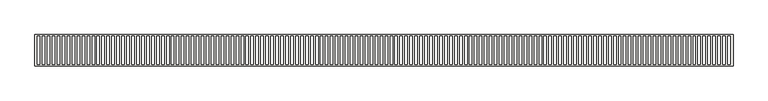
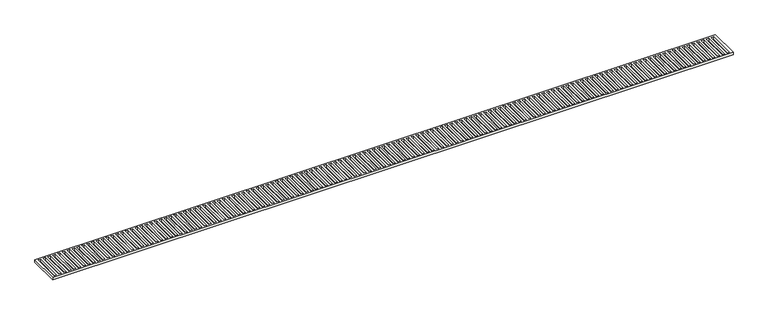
"""IFC4 building model written with IfcOpenShell, lengths in millimetres: slab geometry, REGUERA_METÁLICA4 : REGUERA_METÁLICA-04."""

from ifc_helpers import new_model, si_unit, frame, origin, place, context, project, spatial, polyline, outline, extrude, source, transform, mapped, element, save


def slab_a19fe4b6(model_context):
    return source(origin(), model_context, "Body", "SweptSolid", [
        extrude(outline(polyline([(-5519.7329107, -13600.5485726), (-5519.7329107, -14200.4490004), (-18909.163398, -14200.4490004), (-18909.163398, -13600.5485726), (-5519.7329107, -13600.5485726)]), holes=[polyline([(-8003.038398, -13630.5733804), (-8003.038398, -14170.5339488), (-7955.413398, -14170.5339488), (-7955.413398, -13630.5733804), (-8003.038398, -13630.5733804)]), polyline([(-7907.788398, -13630.5733804), (-7907.788398, -14170.5339488), (-7860.163398, -14170.5339488), (-7860.163398, -13630.5733804), (-7907.788398, -13630.5733804)]), polyline([(-7812.538398, -13630.5733804), (-7812.538398, -14170.5339488), (-7764.913398, -14170.5339488), (-7764.913398, -13630.5733804), (-7812.538398, -13630.5733804)]), polyline([(-7717.288398, -13630.5733804), (-7717.288398, -14170.5339488), (-7669.663398, -14170.5339488), (-7669.663398, -13630.5733804), (-7717.288398, -13630.5733804)]), polyline([(-7622.038398, -13630.5733804), (-7622.038398, -14170.5339488), (-7574.413398, -14170.5339488), (-7574.413398, -13630.5733804), (-7622.038398, -13630.5733804)]), polyline([(-7526.788398, -13630.5733804), (-7526.788398, -14170.5339488), (-7479.163398, -14170.5339488), (-7479.163398, -13630.5733804), (-7526.788398, -13630.5733804)]), polyline([(-7431.538398, -13630.5733804), (-7431.538398, -14170.5339488), (-7383.913398, -14170.5339488), (-7383.913398, -13630.5733804), (-7431.538398, -13630.5733804)]), polyline([(-7336.288398, -13630.5733804), (-7336.288398, -14170.5339488), (-7288.663398, -14170.5339488), (-7288.663398, -13630.5733804), (-7336.288398, -13630.5733804)]), polyline([(-7241.038398, -13630.5733804), (-7241.038398, -14170.5339488), (-7193.413398, -14170.5339488), (-7193.413398, -13630.5733804), (-7241.038398, -13630.5733804)]), polyline([(-7145.788398, -13630.5733804), (-7145.788398, -14170.5339488), (-7098.163398, -14170.5339488), (-7098.163398, -13630.5733804), (-7145.788398, -13630.5733804)]), polyline([(-7050.538398, -13630.5733804), (-7050.538398, -14170.5339488), (-7002.913398, -14170.5339488), (-7002.913398, -13630.5733804), (-7050.538398, -13630.5733804)]), polyline([(-6955.288398, -13630.5733804), (-6955.288398, -14170.5339488), (-6907.663398, -14170.5339488), (-6907.663398, -13630.5733804), (-6955.288398, -13630.5733804)]), polyline([(-6860.038398, -13630.5733804), (-6860.038398, -14170.5339488), (-6812.413398, -14170.5339488), (-6812.413398, -13630.5733804), (-6860.038398, -13630.5733804)]), polyline([(-6764.788398, -13630.5733804), (-6764.788398, -14170.5339488), (-6717.163398, -14170.5339488), (-6717.163398, -13630.5733804), (-6764.788398, -13630.5733804)]), polyline([(-6669.538398, -13630.5733804), (-6669.538398, -14170.5339488), (-6621.913398, -14170.5339488), (-6621.913398, -13630.5733804), (-6669.538398, -13630.5733804)]), polyline([(-6574.288398, -13630.5733804), (-6574.288398, -14170.5339488), (-6526.663398, -14170.5339488), (-6526.663398, -13630.5733804), (-6574.288398, -13630.5733804)]), polyline([(-6479.038398, -13630.5733804), (-6479.038398, -14170.5339488), (-6431.413398, -14170.5339488), (-6431.413398, -13630.5733804), (-6479.038398, -13630.5733804)]), polyline([(-6383.788398, -13630.5733804), (-6383.788398, -14170.5339488), (-6336.163398, -14170.5339488), (-6336.163398, -13630.5733804), (-6383.788398, -13630.5733804)]), polyline([(-6288.538398, -13630.5733804), (-6288.538398, -14170.5339488), (-6240.913398, -14170.5339488), (-6240.913398, -13630.5733804), (-6288.538398, -13630.5733804)]), polyline([(-6193.288398, -13630.5733804), (-6193.288398, -14170.5339488), (-6145.663398, -14170.5339488), (-6145.663398, -13630.5733804), (-6193.288398, -13630.5733804)]), polyline([(-6098.038398, -13630.5733804), (-6098.038398, -14170.5339488), (-6050.413398, -14170.5339488), (-6050.413398, -13630.5733804), (-6098.038398, -13630.5733804)]), polyline([(-6002.788398, -13630.5733804), (-6002.788398, -14170.5339488), (-5955.163398, -14170.5339488), (-5955.163398, -13630.5733804), (-6002.788398, -13630.5733804)]), polyline([(-5907.538398, -13630.5733804), (-5907.538398, -14170.5339488), (-5859.913398, -14170.5339488), (-5859.913398, -13630.5733804), (-5907.538398, -13630.5733804)]), polyline([(-5812.288398, -13630.5733804), (-5812.288398, -14170.5339488), (-5764.663398, -14170.5339488), (-5764.663398, -13630.5733804), (-5812.288398, -13630.5733804)]), polyline([(-5717.038398, -13630.5733804), (-5717.038398, -14170.5339488), (-5669.413398, -14170.5339488), (-5669.413398, -13630.5733804), (-5717.038398, -13630.5733804)]), polyline([(-5621.788398, -13630.5733804), (-5621.788398, -14170.5339488), (-5574.163398, -14170.5339488), (-5574.163398, -13630.5733804), (-5621.788398, -13630.5733804)]), polyline([(-10384.288398, -13630.5733804), (-10384.288398, -14170.5339488), (-10336.663398, -14170.5339488), (-10336.663398, -13630.5733804), (-10384.288398, -13630.5733804)]), polyline([(-10289.038398, -13630.5733804), (-10289.038398, -14170.5339488), (-10241.413398, -14170.5339488), (-10241.413398, -13630.5733804), (-10289.038398, -13630.5733804)]), polyline([(-10193.788398, -13630.5733804), (-10193.788398, -14170.5339488), (-10146.163398, -14170.5339488), (-10146.163398, -13630.5733804), (-10193.788398, -13630.5733804)]), polyline([(-10098.538398, -13630.5733804), (-10098.538398, -14170.5339488), (-10050.913398, -14170.5339488), (-10050.913398, -13630.5733804), (-10098.538398, -13630.5733804)]), polyline([(-10003.288398, -13630.5733804), (-10003.288398, -14170.5339488), (-9955.663398, -14170.5339488), (-9955.663398, -13630.5733804), (-10003.288398, -13630.5733804)]), polyline([(-9908.038398, -13630.5733804), (-9908.038398, -14170.5339488), (-9860.413398, -14170.5339488), (-9860.413398, -13630.5733804), (-9908.038398, -13630.5733804)]), polyline([(-9812.788398, -13630.5733804), (-9812.788398, -14170.5339488), (-9765.163398, -14170.5339488), (-9765.163398, -13630.5733804), (-9812.788398, -13630.5733804)]), polyline([(-9717.538398, -13630.5733804), (-9717.538398, -14170.5339488), (-9669.913398, -14170.5339488), (-9669.913398, -13630.5733804), (-9717.538398, -13630.5733804)]), polyline([(-9622.288398, -13630.5733804), (-9622.288398, -14170.5339488), (-9574.663398, -14170.5339488), (-9574.663398, -13630.5733804), (-9622.288398, -13630.5733804)]), polyline([(-9527.038398, -13630.5733804), (-9527.038398, -14170.5339488), (-9479.413398, -14170.5339488), (-9479.413398, -13630.5733804), (-9527.038398, -13630.5733804)]), polyline([(-9431.788398, -13630.5733804), (-9431.788398, -14170.5339488), (-9384.163398, -14170.5339488), (-9384.163398, -13630.5733804), (-9431.788398, -13630.5733804)]), polyline([(-9336.538398, -13630.5733804), (-9336.538398, -14170.5339488), (-9288.913398, -14170.5339488), (-9288.913398, -13630.5733804), (-9336.538398, -13630.5733804)]), polyline([(-9241.288398, -13630.5733804), (-9241.288398, -14170.5339488), (-9193.663398, -14170.5339488), (-9193.663398, -13630.5733804), (-9241.288398, -13630.5733804)]), polyline([(-9146.038398, -13630.5733804), (-9146.038398, -14170.5339488), (-9098.413398, -14170.5339488), (-9098.413398, -13630.5733804), (-9146.038398, -13630.5733804)]), polyline([(-9050.788398, -13630.5733804), (-9050.788398, -14170.5339488), (-9003.163398, -14170.5339488), (-9003.163398, -13630.5733804), (-9050.788398, -13630.5733804)]), polyline([(-8955.538398, -13630.5733804), (-8955.538398, -14170.5339488), (-8907.913398, -14170.5339488), (-8907.913398, -13630.5733804), (-8955.538398, -13630.5733804)]), polyline([(-8860.288398, -13630.5733804), (-8860.288398, -14170.5339488), (-8812.663398, -14170.5339488), (-8812.663398, -13630.5733804), (-8860.288398, -13630.5733804)]), polyline([(-8765.038398, -13630.5733804), (-8765.038398, -14170.5339488), (-8717.413398, -14170.5339488), (-8717.413398, -13630.5733804), (-8765.038398, -13630.5733804)]), polyline([(-8669.788398, -13630.5733804), (-8669.788398, -14170.5339488), (-8622.163398, -14170.5339488), (-8622.163398, -13630.5733804), (-8669.788398, -13630.5733804)]), polyline([(-8574.538398, -13630.5733804), (-8574.538398, -14170.5339488), (-8526.913398, -14170.5339488), (-8526.913398, -13630.5733804), (-8574.538398, -13630.5733804)]), polyline([(-8479.288398, -13630.5733804), (-8479.288398, -14170.5339488), (-8431.663398, -14170.5339488), (-8431.663398, -13630.5733804), (-8479.288398, -13630.5733804)]), polyline([(-8384.038398, -13630.5733804), (-8384.038398, -14170.5339488), (-8336.413398, -14170.5339488), (-8336.413398, -13630.5733804), (-8384.038398, -13630.5733804)]), polyline([(-8288.788398, -13630.5733804), (-8288.788398, -14170.5339488), (-8241.163398, -14170.5339488), (-8241.163398, -13630.5733804), (-8288.788398, -13630.5733804)]), polyline([(-8193.538398, -13630.5733804), (-8193.538398, -14170.5339488), (-8145.913398, -14170.5339488), (-8145.913398, -13630.5733804), (-8193.538398, -13630.5733804)]), polyline([(-8098.288398, -13630.5733804), (-8098.288398, -14170.5339488), (-8050.663398, -14170.5339488), (-8050.663398, -13630.5733804), (-8098.288398, -13630.5733804)]), polyline([(-12765.538398, -13630.5733804), (-12765.538398, -14170.5339488), (-12717.913398, -14170.5339488), (-12717.913398, -13630.5733804), (-12765.538398, -13630.5733804)]), polyline([(-12670.288398, -13630.5733804), (-12670.288398, -14170.5339488), (-12622.663398, -14170.5339488), (-12622.663398, -13630.5733804), (-12670.288398, -13630.5733804)]), polyline([(-12575.038398, -13630.5733804), (-12575.038398, -14170.5339488), (-12527.413398, -14170.5339488), (-12527.413398, -13630.5733804), (-12575.038398, -13630.5733804)]), polyline([(-12479.788398, -13630.5733804), (-12479.788398, -14170.5339488), (-12432.163398, -14170.5339488), (-12432.163398, -13630.5733804), (-12479.788398, -13630.5733804)]), polyline([(-12384.538398, -13630.5733804), (-12384.538398, -14170.5339488), (-12336.913398, -14170.5339488), (-12336.913398, -13630.5733804), (-12384.538398, -13630.5733804)]), polyline([(-12289.288398, -13630.5733804), (-12289.288398, -14170.5339488), (-12241.663398, -14170.5339488), (-12241.663398, -13630.5733804), (-12289.288398, -13630.5733804)]), polyline([(-12194.038398, -13630.5733804), (-12194.038398, -14170.5339488), (-12146.413398, -14170.5339488), (-12146.413398, -13630.5733804), (-12194.038398, -13630.5733804)]), polyline([(-12098.788398, -13630.5733804), (-12098.788398, -14170.5339488), (-12051.163398, -14170.5339488), (-12051.163398, -13630.5733804), (-12098.788398, -13630.5733804)]), polyline([(-12003.538398, -13630.5733804), (-12003.538398, -14170.5339488), (-11955.913398, -14170.5339488), (-11955.913398, -13630.5733804), (-12003.538398, -13630.5733804)]), polyline([(-11908.288398, -13630.5733804), (-11908.288398, -14170.5339488), (-11860.663398, -14170.5339488), (-11860.663398, -13630.5733804), (-11908.288398, -13630.5733804)]), polyline([(-11813.038398, -13630.5733804), (-11813.038398, -14170.5339488), (-11765.413398, -14170.5339488), (-11765.413398, -13630.5733804), (-11813.038398, -13630.5733804)]), polyline([(-11717.788398, -13630.5733804), (-11717.788398, -14170.5339488), (-11670.163398, -14170.5339488), (-11670.163398, -13630.5733804), (-11717.788398, -13630.5733804)]), polyline([(-11622.538398, -13630.5733804), (-11622.538398, -14170.5339488), (-11574.913398, -14170.5339488), (-11574.913398, -13630.5733804), (-11622.538398, -13630.5733804)]), polyline([(-11527.288398, -13630.5733804), (-11527.288398, -14170.5339488), (-11479.663398, -14170.5339488), (-11479.663398, -13630.5733804), (-11527.288398, -13630.5733804)]), polyline([(-11432.038398, -13630.5733804), (-11432.038398, -14170.5339488), (-11384.413398, -14170.5339488), (-11384.413398, -13630.5733804), (-11432.038398, -13630.5733804)]), polyline([(-11336.788398, -13630.5733804), (-11336.788398, -14170.5339488), (-11289.163398, -14170.5339488), (-11289.163398, -13630.5733804), (-11336.788398, -13630.5733804)]), polyline([(-11241.538398, -13630.5733804), (-11241.538398, -14170.5339488), (-11193.913398, -14170.5339488), (-11193.913398, -13630.5733804), (-11241.538398, -13630.5733804)]), polyline([(-11146.288398, -13630.5733804), (-11146.288398, -14170.5339488), (-11098.663398, -14170.5339488), (-11098.663398, -13630.5733804), (-11146.288398, -13630.5733804)]), polyline([(-11051.038398, -13630.5733804), (-11051.038398, -14170.5339488), (-11003.413398, -14170.5339488), (-11003.413398, -13630.5733804), (-11051.038398, -13630.5733804)]), polyline([(-10955.788398, -13630.5733804), (-10955.788398, -14170.5339488), (-10908.163398, -14170.5339488), (-10908.163398, -13630.5733804), (-10955.788398, -13630.5733804)]), polyline([(-10860.538398, -13630.5733804), (-10860.538398, -14170.5339488), (-10812.913398, -14170.5339488), (-10812.913398, -13630.5733804), (-10860.538398, -13630.5733804)]), polyline([(-10765.288398, -13630.5733804), (-10765.288398, -14170.5339488), (-10717.663398, -14170.5339488), (-10717.663398, -13630.5733804), (-10765.288398, -13630.5733804)]), polyline([(-10670.038398, -13630.5733804), (-10670.038398, -14170.5339488), (-10622.413398, -14170.5339488), (-10622.413398, -13630.5733804), (-10670.038398, -13630.5733804)]), polyline([(-10574.788398, -13630.5733804), (-10574.788398, -14170.5339488), (-10527.163398, -14170.5339488), (-10527.163398, -13630.5733804), (-10574.788398, -13630.5733804)]), polyline([(-10479.538398, -13630.5733804), (-10479.538398, -14170.5339488), (-10431.913398, -14170.5339488), (-10431.913398, -13630.5733804), (-10479.538398, -13630.5733804)]), polyline([(-15146.788398, -13630.5733804), (-15146.788398, -14170.5339488), (-15099.163398, -14170.5339488), (-15099.163398, -13630.5733804), (-15146.788398, -13630.5733804)]), polyline([(-15051.538398, -13630.5733804), (-15051.538398, -14170.5339488), (-15003.913398, -14170.5339488), (-15003.913398, -13630.5733804), (-15051.538398, -13630.5733804)]), polyline([(-14956.288398, -13630.5733804), (-14956.288398, -14170.5339488), (-14908.663398, -14170.5339488), (-14908.663398, -13630.5733804), (-14956.288398, -13630.5733804)]), polyline([(-14861.038398, -13630.5733804), (-14861.038398, -14170.5339488), (-14813.413398, -14170.5339488), (-14813.413398, -13630.5733804), (-14861.038398, -13630.5733804)]), polyline([(-14765.788398, -13630.5733804), (-14765.788398, -14170.5339488), (-14718.163398, -14170.5339488), (-14718.163398, -13630.5733804), (-14765.788398, -13630.5733804)]), polyline([(-14670.538398, -13630.5733804), (-14670.538398, -14170.5339488), (-14622.913398, -14170.5339488), (-14622.913398, -13630.5733804), (-14670.538398, -13630.5733804)]), polyline([(-14575.288398, -13630.5733804), (-14575.288398, -14170.5339488), (-14527.663398, -14170.5339488), (-14527.663398, -13630.5733804), (-14575.288398, -13630.5733804)]), polyline([(-14480.038398, -13630.5733804), (-14480.038398, -14170.5339488), (-14432.413398, -14170.5339488), (-14432.413398, -13630.5733804), (-14480.038398, -13630.5733804)]), polyline([(-14384.788398, -13630.5733804), (-14384.788398, -14170.5339488), (-14337.163398, -14170.5339488), (-14337.163398, -13630.5733804), (-14384.788398, -13630.5733804)]), polyline([(-14289.538398, -13630.5733804), (-14289.538398, -14170.5339488), (-14241.913398, -14170.5339488), (-14241.913398, -13630.5733804), (-14289.538398, -13630.5733804)]), polyline([(-14194.288398, -13630.5733804), (-14194.288398, -14170.5339488), (-14146.663398, -14170.5339488), (-14146.663398, -13630.5733804), (-14194.288398, -13630.5733804)]), polyline([(-14099.038398, -13630.5733804), (-14099.038398, -14170.5339488), (-14051.413398, -14170.5339488), (-14051.413398, -13630.5733804), (-14099.038398, -13630.5733804)]), polyline([(-14003.788398, -13630.5733804), (-14003.788398, -14170.5339488), (-13956.163398, -14170.5339488), (-13956.163398, -13630.5733804), (-14003.788398, -13630.5733804)]), polyline([(-13908.538398, -13630.5733804), (-13908.538398, -14170.5339488), (-13860.913398, -14170.5339488), (-13860.913398, -13630.5733804), (-13908.538398, -13630.5733804)]), polyline([(-13813.288398, -13630.5733804), (-13813.288398, -14170.5339488), (-13765.663398, -14170.5339488), (-13765.663398, -13630.5733804), (-13813.288398, -13630.5733804)]), polyline([(-13718.038398, -13630.5733804), (-13718.038398, -14170.5339488), (-13670.413398, -14170.5339488), (-13670.413398, -13630.5733804), (-13718.038398, -13630.5733804)]), polyline([(-13622.788398, -13630.5733804), (-13622.788398, -14170.5339488), (-13575.163398, -14170.5339488), (-13575.163398, -13630.5733804), (-13622.788398, -13630.5733804)]), polyline([(-13527.538398, -13630.5733804), (-13527.538398, -14170.5339488), (-13479.913398, -14170.5339488), (-13479.913398, -13630.5733804), (-13527.538398, -13630.5733804)]), polyline([(-13432.288398, -13630.5733804), (-13432.288398, -14170.5339488), (-13384.663398, -14170.5339488), (-13384.663398, -13630.5733804), (-13432.288398, -13630.5733804)]), polyline([(-13337.038398, -13630.5733804), (-13337.038398, -14170.5339488), (-13289.413398, -14170.5339488), (-13289.413398, -13630.5733804), (-13337.038398, -13630.5733804)]), polyline([(-13241.788398, -13630.5733804), (-13241.788398, -14170.5339488), (-13194.163398, -14170.5339488), (-13194.163398, -13630.5733804), (-13241.788398, -13630.5733804)]), polyline([(-13146.538398, -13630.5733804), (-13146.538398, -14170.5339488), (-13098.913398, -14170.5339488), (-13098.913398, -13630.5733804), (-13146.538398, -13630.5733804)]), polyline([(-13051.288398, -13630.5733804), (-13051.288398, -14170.5339488), (-13003.663398, -14170.5339488), (-13003.663398, -13630.5733804), (-13051.288398, -13630.5733804)]), polyline([(-12956.038398, -13630.5733804), (-12956.038398, -14170.5339488), (-12908.413398, -14170.5339488), (-12908.413398, -13630.5733804), (-12956.038398, -13630.5733804)]), polyline([(-12860.788398, -13630.5733804), (-12860.788398, -14170.5339488), (-12813.163398, -14170.5339488), (-12813.163398, -13630.5733804), (-12860.788398, -13630.5733804)]), polyline([(-17528.038398, -13630.5733804), (-17528.038398, -14170.5339488), (-17480.413398, -14170.5339488), (-17480.413398, -13630.5733804), (-17528.038398, -13630.5733804)]), polyline([(-17432.788398, -13630.5733804), (-17432.788398, -14170.5339488), (-17385.163398, -14170.5339488), (-17385.163398, -13630.5733804), (-17432.788398, -13630.5733804)]), polyline([(-17337.538398, -13630.5733804), (-17337.538398, -14170.5339488), (-17289.913398, -14170.5339488), (-17289.913398, -13630.5733804), (-17337.538398, -13630.5733804)]), polyline([(-17242.288398, -13630.5733804), (-17242.288398, -14170.5339488), (-17194.663398, -14170.5339488), (-17194.663398, -13630.5733804), (-17242.288398, -13630.5733804)]), polyline([(-17147.038398, -13630.5733804), (-17147.038398, -14170.5339488), (-17099.413398, -14170.5339488), (-17099.413398, -13630.5733804), (-17147.038398, -13630.5733804)]), polyline([(-17051.788398, -13630.5733804), (-17051.788398, -14170.5339488), (-17004.163398, -14170.5339488), (-17004.163398, -13630.5733804), (-17051.788398, -13630.5733804)]), polyline([(-16956.538398, -13630.5733804), (-16956.538398, -14170.5339488), (-16908.913398, -14170.5339488), (-16908.913398, -13630.5733804), (-16956.538398, -13630.5733804)]), polyline([(-16861.288398, -13630.5733804), (-16861.288398, -14170.5339488), (-16813.663398, -14170.5339488), (-16813.663398, -13630.5733804), (-16861.288398, -13630.5733804)]), polyline([(-16766.038398, -13630.5733804), (-16766.038398, -14170.5339488), (-16718.413398, -14170.5339488), (-16718.413398, -13630.5733804), (-16766.038398, -13630.5733804)]), polyline([(-16670.788398, -13630.5733804), (-16670.788398, -14170.5339488), (-16623.163398, -14170.5339488), (-16623.163398, -13630.5733804), (-16670.788398, -13630.5733804)]), polyline([(-16575.538398, -13630.5733804), (-16575.538398, -14170.5339488), (-16527.913398, -14170.5339488), (-16527.913398, -13630.5733804), (-16575.538398, -13630.5733804)]), polyline([(-16480.288398, -13630.5733804), (-16480.288398, -14170.5339488), (-16432.663398, -14170.5339488), (-16432.663398, -13630.5733804), (-16480.288398, -13630.5733804)]), polyline([(-16385.038398, -13630.5733804), (-16385.038398, -14170.5339488), (-16337.413398, -14170.5339488), (-16337.413398, -13630.5733804), (-16385.038398, -13630.5733804)]), polyline([(-16289.788398, -13630.5733804), (-16289.788398, -14170.5339488), (-16242.163398, -14170.5339488), (-16242.163398, -13630.5733804), (-16289.788398, -13630.5733804)]), polyline([(-16194.538398, -13630.5733804), (-16194.538398, -14170.5339488), (-16146.913398, -14170.5339488), (-16146.913398, -13630.5733804), (-16194.538398, -13630.5733804)]), polyline([(-16099.288398, -13630.5733804), (-16099.288398, -14170.5339488), (-16051.663398, -14170.5339488), (-16051.663398, -13630.5733804), (-16099.288398, -13630.5733804)]), polyline([(-16004.038398, -13630.5733804), (-16004.038398, -14170.5339488), (-15956.413398, -14170.5339488), (-15956.413398, -13630.5733804), (-16004.038398, -13630.5733804)]), polyline([(-15908.788398, -13630.5733804), (-15908.788398, -14170.5339488), (-15861.163398, -14170.5339488), (-15861.163398, -13630.5733804), (-15908.788398, -13630.5733804)]), polyline([(-15813.538398, -13630.5733804), (-15813.538398, -14170.5339488), (-15765.913398, -14170.5339488), (-15765.913398, -13630.5733804), (-15813.538398, -13630.5733804)]), polyline([(-15718.288398, -13630.5733804), (-15718.288398, -14170.5339488), (-15670.663398, -14170.5339488), (-15670.663398, -13630.5733804), (-15718.288398, -13630.5733804)]), polyline([(-15623.038398, -13630.5733804), (-15623.038398, -14170.5339488), (-15575.413398, -14170.5339488), (-15575.413398, -13630.5733804), (-15623.038398, -13630.5733804)]), polyline([(-15527.788398, -13630.5733804), (-15527.788398, -14170.5339488), (-15480.163398, -14170.5339488), (-15480.163398, -13630.5733804), (-15527.788398, -13630.5733804)]), polyline([(-15432.538398, -13630.5733804), (-15432.538398, -14170.5339488), (-15384.913398, -14170.5339488), (-15384.913398, -13630.5733804), (-15432.538398, -13630.5733804)]), polyline([(-15337.288398, -13630.5733804), (-15337.288398, -14170.5339488), (-15289.663398, -14170.5339488), (-15289.663398, -13630.5733804), (-15337.288398, -13630.5733804)]), polyline([(-15242.038398, -13630.5733804), (-15242.038398, -14170.5339488), (-15194.413398, -14170.5339488), (-15194.413398, -13630.5733804), (-15242.038398, -13630.5733804)]), polyline([(-18861.538398, -13630.5733804), (-18861.538398, -14170.5339488), (-18813.913398, -14170.5339488), (-18813.913398, -13630.5733804), (-18861.538398, -13630.5733804)]), polyline([(-18766.288398, -13630.5733804), (-18766.288398, -14170.5339488), (-18718.663398, -14170.5339488), (-18718.663398, -13630.5733804), (-18766.288398, -13630.5733804)]), polyline([(-18671.038398, -13630.5733804), (-18671.038398, -14170.5339488), (-18623.413398, -14170.5339488), (-18623.413398, -13630.5733804), (-18671.038398, -13630.5733804)]), polyline([(-18575.788398, -13630.5733804), (-18575.788398, -14170.5339488), (-18528.163398, -14170.5339488), (-18528.163398, -13630.5733804), (-18575.788398, -13630.5733804)]), polyline([(-18480.538398, -13630.5733804), (-18480.538398, -14170.5339488), (-18432.913398, -14170.5339488), (-18432.913398, -13630.5733804), (-18480.538398, -13630.5733804)]), polyline([(-18385.288398, -13630.5733804), (-18385.288398, -14170.5339488), (-18337.663398, -14170.5339488), (-18337.663398, -13630.5733804), (-18385.288398, -13630.5733804)]), polyline([(-18290.038398, -13630.5733804), (-18290.038398, -14170.5339488), (-18242.413398, -14170.5339488), (-18242.413398, -13630.5733804), (-18290.038398, -13630.5733804)]), polyline([(-18194.788398, -13630.5733804), (-18194.788398, -14170.5339488), (-18147.163398, -14170.5339488), (-18147.163398, -13630.5733804), (-18194.788398, -13630.5733804)]), polyline([(-18099.538398, -13630.5733804), (-18099.538398, -14170.5339488), (-18051.913398, -14170.5339488), (-18051.913398, -13630.5733804), (-18099.538398, -13630.5733804)]), polyline([(-18004.288398, -13630.5733804), (-18004.288398, -14170.5339488), (-17956.663398, -14170.5339488), (-17956.663398, -13630.5733804), (-18004.288398, -13630.5733804)]), polyline([(-17909.038398, -13630.5733804), (-17909.038398, -14170.5339488), (-17861.413398, -14170.5339488), (-17861.413398, -13630.5733804), (-17909.038398, -13630.5733804)]), polyline([(-17813.788398, -13630.5733804), (-17813.788398, -14170.5339488), (-17766.163398, -14170.5339488), (-17766.163398, -13630.5733804), (-17813.788398, -13630.5733804)]), polyline([(-17718.538398, -13630.5733804), (-17718.538398, -14170.5339488), (-17670.913398, -14170.5339488), (-17670.913398, -13630.5733804), (-17718.538398, -13630.5733804)]), polyline([(-17623.288398, -13630.5733804), (-17623.288398, -14170.5339488), (-17575.663398, -14170.5339488), (-17575.663398, -13630.5733804), (-17623.288398, -13630.5733804)])]), frame((0.0, 0.0, 1450.0), z_axis=(0.0, 0.0, 1.0), x_axis=(1.0, 0.0, 0.0)), (0.0, 0.0, 1.0), 50.0),
    ])


if __name__ == "__main__":
    model = new_model("IFC4")
    model_context = context("Model", 3, world=origin())
    ifc_project = project(units=[si_unit("LENGTHUNIT", "METRE", prefix="MILLI")], contexts=[model_context])
    site = spatial("IfcSite", under=ifc_project)
    building = spatial("IfcBuilding", under=site)
    placement = place(None, origin())
    slab_shape = slab_a19fe4b6(model_context)
    element("IfcSlab", 1, ObjectType="REGUERA_METÁLICA4 : REGUERA_METÁLICA-04", at=placement, inside=building, context=model_context, shape_type="MappedRepresentation", body=[
        mapped(slab_shape, transform((0.0, 0.0, 0.0), x_axis=(1.0, 0.0, 0.0), y_axis=(0.0, 1.0, 0.0), z_axis=(0.0, 0.0, 1.0))),
    ])
    save(model, "model.ifc")
